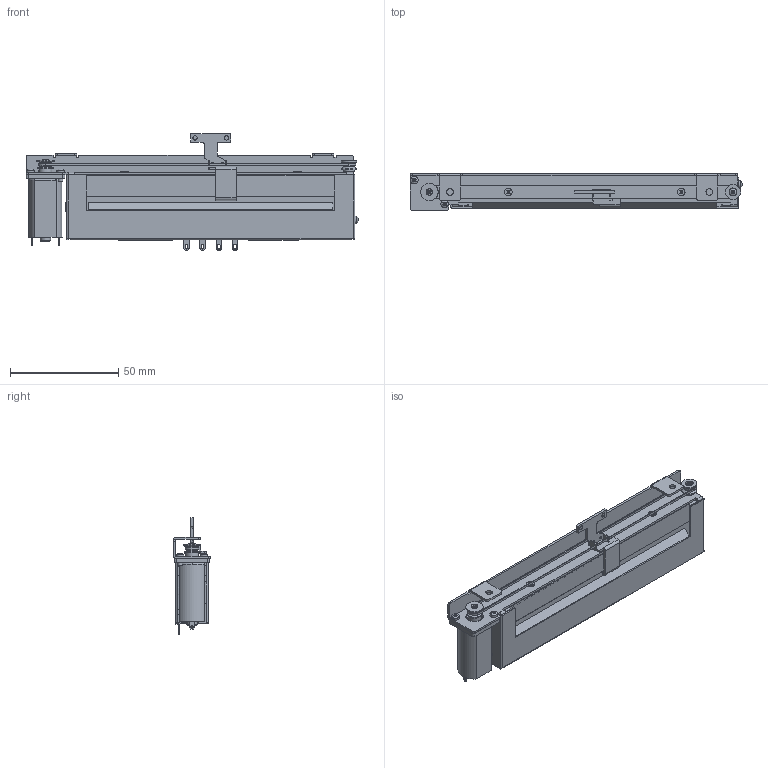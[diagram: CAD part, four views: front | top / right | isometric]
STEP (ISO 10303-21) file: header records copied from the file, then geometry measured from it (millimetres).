
FILE_DESCRIPTION(('FreeCAD Model'),'2;1');
FILE_NAME('Open CASCADE Shape Model','2025-05-15T10:14:11',(''),(''), 'Open CASCADE STEP processor 7.8','FreeCAD','Unknown');
FILE_SCHEMA(('AUTOMOTIVE_DESIGN { 1 0 10303 214 1 1 1 1 }'));
Length unit declared in the file: millimetre
Products named in the file (1): MF-915-M8V-L9-1CIR
Bounding box: 153.67 x 17 x 54.1 mm (x, y, z)
Volume: 57602.2 mm3; surface area: 33003.2 mm2
Topology: 1 solids, 9 shells, 774 faces, 2015 edges, 1280 vertices
Faces by surface type: plane 523, cylinder 166, cone 47, bspline 18, torus 11, sphere 6, revolution 3
Full cylindrical faces by diameter (mm): 1.1 x2, 1.2 x6, 1.25 x2, 1.46 x1, 1.5 x3, 1.6 x2, 2 x17, 2.1 x1, 2.2 x7, 2.4 x2, 2.6 x3, 3 x4, 3.03 x1, 3.5 x6, 3.6 x2, 3.7 x1, 4 x4, 4.7 x2, 4.75 x1, 5 x1, 5.38 x1, 6 x1, 6.5 x1, 7 x3, 8 x1, 8.2 x1
Entity records: 29002 total; most frequent: CARTESIAN_POINT 4389, DIRECTION 4117, ORIENTED_EDGE 4026, EDGE_CURVE 2009, AXIS2_PLACEMENT_3D 1406, LINE 1302, VECTOR 1302, VERTEX_POINT 1280
